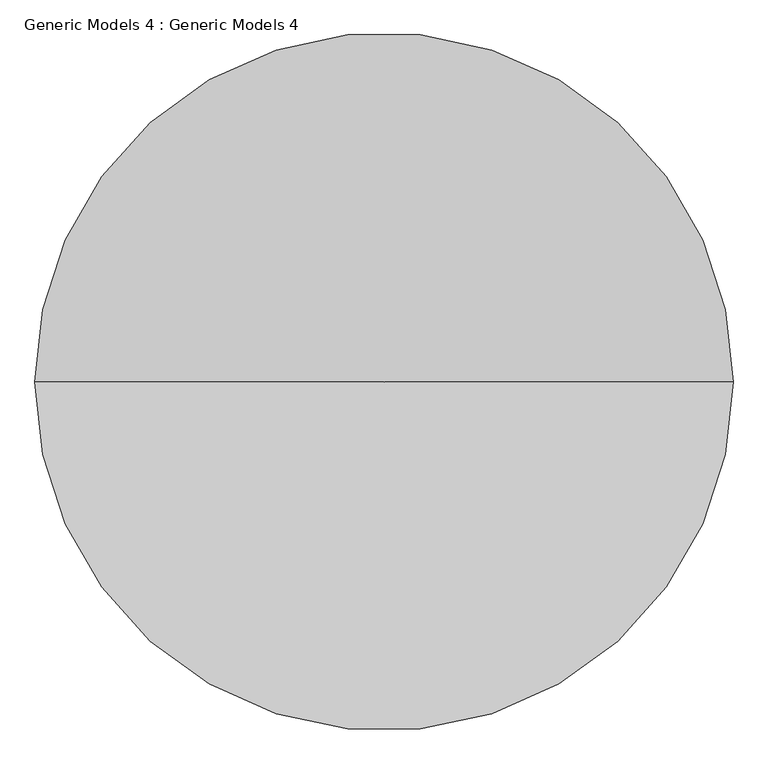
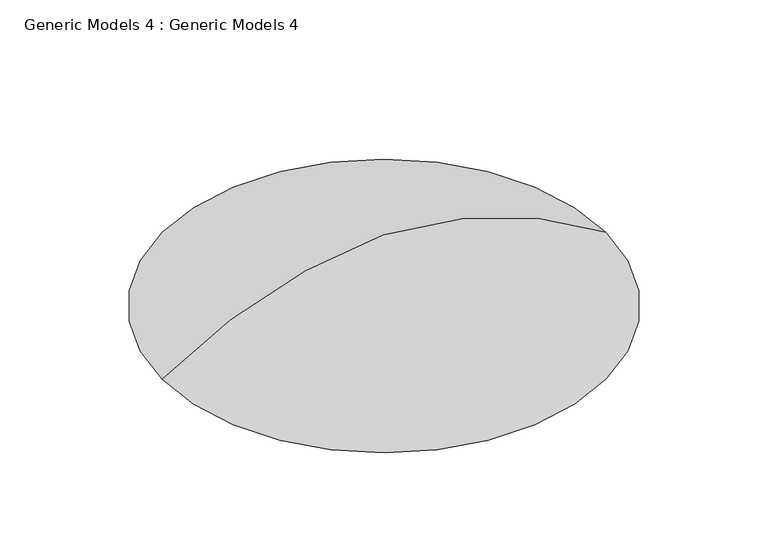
"""IFC4 building model written with IfcOpenShell, lengths in millimetres: proxy geometry, Generic Models 4 : Generic Models 4."""

from ifc_helpers import new_model, si_unit, point, frame, origin, place, context, project, spatial, circle_curve, ellipse_curve, trimmed, source, transform, mapped, element, save
from ifc_brep_helpers import plane_surface, revolved_surface, advanced_brep


def generic_models_4_generic_models_4_6c048f05(model_context):
    return source(origin(), model_context, "Body", "AdvancedBrep", [
        advanced_brep(
        [(-11510.4922758, 536.0156211, 11049.0), (-5213.5950906, 536.0156211, 11049.0), (-8362.0436832, 536.0156211, 12115.8), (-8362.0436832, 536.0156211, 11049.0)],
        [
            (0, 1, circle_curve(frame((-8362.0436832, 536.0156211, 11049.0), z_axis=(0.0, 0.0, 1.0), x_axis=(1.0, 0.0, 0.0)), 3148.4485926)),
            (1, 2, circle_curve(frame((-8592.4689378, 536.0156211, 6256.3348156), z_axis=(0.0, -1.0, 0.0), x_axis=(-1.0, 0.0, 0.0)), 5863.9942058)),
            (2, 0, circle_curve(frame((-8131.6184286, 536.0156211, 6256.3348156), z_axis=(0.0, -1.0, 0.0), x_axis=(1.0, 0.0, 0.0)), 5863.9942058)),
            (1, 0, circle_curve(frame((-8362.0436832, 536.0156211, 11049.0), z_axis=(0.0, 0.0, 1.0), x_axis=(1.0, 0.0, 0.0)), 3148.4485926)),
            (3, 1),
            (0, 3),
        ],
        [
            revolved_surface(trimmed(ellipse_curve(frame((-8592.4689378, 536.0156211, 6256.3348156), z_axis=(0.0, 1.0, 0.0), x_axis=(-1.0, 0.0, 0.0)), 5863.9942058, 5863.9942058), [point((-8362.0436832, 536.0156211, 12115.8))], [point((-5213.5950906, 536.0156211, 11049.0))], True, "CARTESIAN"), (-8362.0436832, 536.0156211, 12268.2), (0.0, 0.0, -1.0)),
            plane_surface(frame((-8362.0436832, 536.0156211, 11049.0), z_axis=(0.0, 0.0, -1.0), x_axis=(1.0, 0.0, 0.0))),
        ],
        [
            (0, [[1, 2, 3]]),
            (0, [[4, -3, -2]]),
            (1, [[5, -1, 6]]),
            (1, [[-6, -4, -5]]),
        ],
    ),
    ])


if __name__ == "__main__":
    model = new_model("IFC4")
    model_context = context("Model", 3, world=origin())
    ifc_project = project(units=[si_unit("LENGTHUNIT", "METRE", prefix="MILLI")], contexts=[model_context])
    site = spatial("IfcSite", under=ifc_project)
    building = spatial("IfcBuilding", under=site)
    placement = place(None, origin())
    generic_models_4_generic_models_4_shape = generic_models_4_generic_models_4_6c048f05(model_context)
    element("IfcBuildingElementProxy", 1, Name="Generic Models 4 : Generic Models 4", ObjectType="Generic Models 4 : Generic Models 4", at=placement, inside=building, context=model_context, shape_type="MappedRepresentation", body=[
        mapped(generic_models_4_generic_models_4_shape, transform((0.0, 0.0, 0.0), x_axis=(1.0, 0.0, 0.0), y_axis=(0.0, 1.0, 0.0), z_axis=(0.0, 0.0, 1.0))),
    ])
    save(model, "model.ifc")
